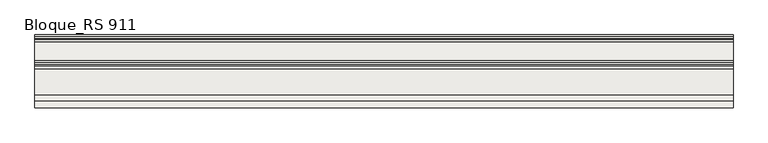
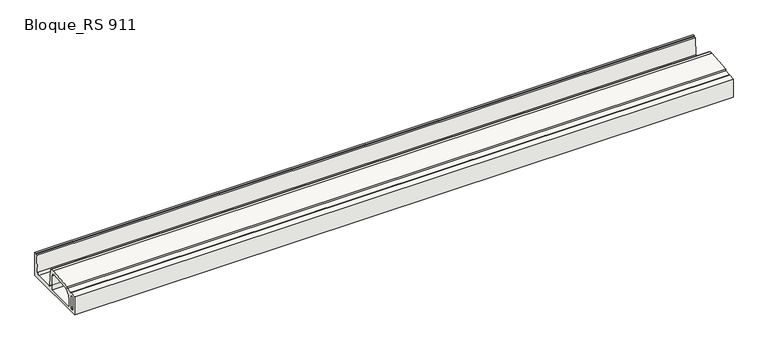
"""IFC4 building model written with IfcOpenShell, lengths in millimetres: slab geometry, ROSA GRES_RS 911 : Bloque_RS 911."""

from ifc_helpers import new_model, si_unit, point, frame, frame_2d, origin, place, context, project, spatial, polyline, circle_curve, trimmed, segment, composite_curve, outline, extrude, source, transform, mapped, element, save


def bloque_rs_911_83af6cfa(model_context):
    return source(origin(), model_context, "Body", "SweptSolid", [
        extrude(outline(composite_curve([segment(polyline([(12.836227, 1.7539108), (12.836227, 171.9333029), (67.836227, 176.4100471), (67.836227, 173.8170239), (72.836227, 173.8170239), (72.836227, 176.8170239), (125.1172881, 181.0724591), (123.836227, 196.8112099), (343.836227, 214.7181867), (343.836227, 216.3460936), (363.836227, 216.3460936), (363.836227, 206.3460936), (381.836227, 206.3460936), (393.5484732, 55.2086635)]), True, "CONTINUOUS"), segment(trimmed(circle_curve(frame_2d((413.4886891, 56.7539108)), 20.0), [point((393.5484732, 55.2086635))], [point((413.4886891, 36.7539108))], True, "CARTESIAN"), True, "CONTINUOUS"), segment(polyline([(413.4886891, 36.7539108), (567.1837649, 36.7539108)]), True, "CONTINUOUS"), segment(trimmed(circle_curve(frame_2d((567.1837649, 56.7539108)), 20.0), [point((567.1837649, 36.7539108))], [point((587.1239808, 55.2086635))], True, "CARTESIAN"), True, "CONTINUOUS"), segment(polyline([(587.1239808, 55.2086635), (598.836227, 206.3460936), (616.836227, 206.3460936), (616.836227, 216.3460936), (626.836227, 216.3460936), (626.836227, 1.7539108), (12.836227, 1.7539108)]), True, "CONTINUOUS")], self_intersect=False), holes=[composite_curve([segment(trimmed(circle_curve(frame_2d((59.836227, 140.6431347)), 8.0), [point((67.836227, 140.6431347))], [point((59.1872106, 148.6167648))], True, "CARTESIAN"), True, "CONTINUOUS"), segment(polyline([(59.1872106, 148.6167648), (47.1872106, 147.6400206)]), True, "CONTINUOUS"), segment(trimmed(circle_curve(frame_2d((47.836227, 139.6663905)), 8.0), [point((47.1872106, 147.6400206))], [point((39.836227, 139.6663905))], True, "CARTESIAN"), True, "CONTINUOUS"), segment(polyline([(39.836227, 139.6663905), (39.836227, 36.7539108)]), True, "CONTINUOUS"), segment(trimmed(circle_curve(frame_2d((47.836227, 36.7539108)), 8.0), [point((39.836227, 36.7539108))], [point((47.836227, 28.7539108))], True, "CARTESIAN"), True, "CONTINUOUS"), segment(polyline([(47.836227, 28.7539108), (59.836227, 28.7539108)]), True, "CONTINUOUS"), segment(trimmed(circle_curve(frame_2d((59.836227, 36.7539108)), 8.0), [point((59.836227, 28.7539108))], [point((67.836227, 36.7539108))], True, "CARTESIAN"), True, "CONTINUOUS"), segment(polyline([(67.836227, 36.7539108), (67.836227, 140.6431347)]), True, "CONTINUOUS")], self_intersect=False), composite_curve([segment(trimmed(circle_curve(frame_2d((187.3063127, 84.534333)), 85.0), [point((180.4105134, 169.2541533))], [point((102.3063127, 84.534333))], True, "CARTESIAN"), True, "CONTINUOUS"), segment(polyline([(102.3063127, 84.534333), (102.3063127, 28.7539108), (356.3063127, 28.7539108), (356.3063127, 161.8772036)]), True, "CONTINUOUS"), segment(trimmed(circle_curve(frame_2d((336.3063127, 161.8772036)), 20.0), [point((356.3063127, 161.8772036))], [point((334.6837717, 181.811279))], True, "CARTESIAN"), True, "CONTINUOUS"), segment(polyline([(334.6837717, 181.811279), (180.4105134, 169.2541533)]), True, "CONTINUOUS")], self_intersect=False)]), frame((0.0, 0.0, 0.0), z_axis=(1.0, 0.0, 0.0), x_axis=(0.0, 1.0, 0.0)), (0.0, 0.0, 1.0), 5877.1645773),
    ])


if __name__ == "__main__":
    model = new_model("IFC4")
    model_context = context("Model", 3, world=origin())
    ifc_project = project(units=[si_unit("LENGTHUNIT", "METRE", prefix="MILLI")], contexts=[model_context])
    site = spatial("IfcSite", under=ifc_project)
    building = spatial("IfcBuilding", under=site)
    placement = place(None, origin())
    bloque_rs_911_shape = bloque_rs_911_83af6cfa(model_context)
    element("IfcSlab", 1, ObjectType="ROSA GRES_RS 911 : Bloque_RS 911", at=placement, inside=building, context=model_context, shape_type="MappedRepresentation", body=[
        mapped(bloque_rs_911_shape, transform((0.0, 0.0, 0.0), x_axis=(1.0, 0.0, 0.0), y_axis=(0.0, 1.0, 0.0), z_axis=(0.0, 0.0, 1.0))),
    ])
    save(model, "model.ifc")
